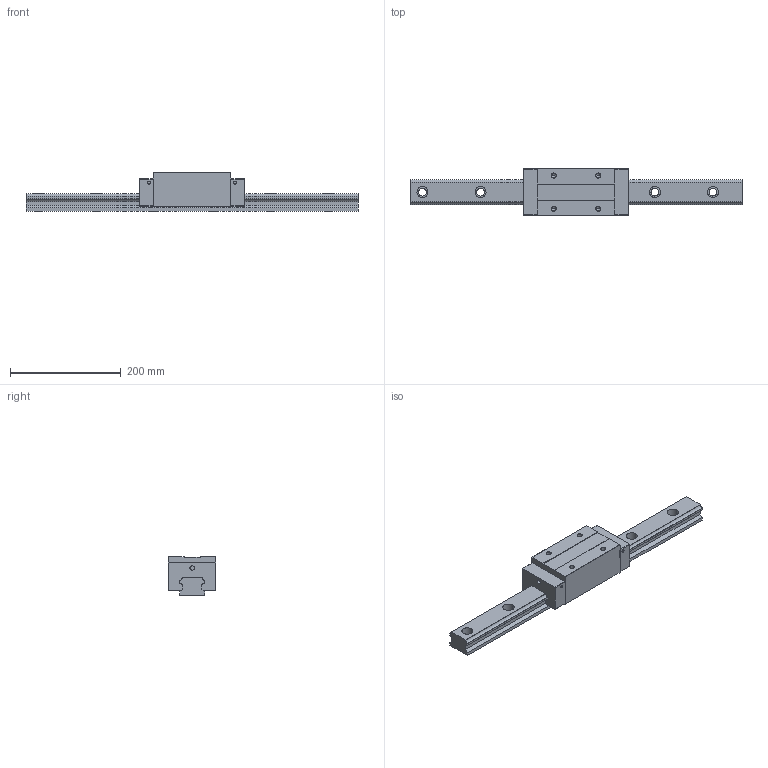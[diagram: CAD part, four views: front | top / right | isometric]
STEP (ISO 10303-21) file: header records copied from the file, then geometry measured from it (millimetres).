
FILE_DESCRIPTION (( 'STEP AP203' ), '1' );
FILE_NAME ('TRH45VE-DU.STEP', '2024-07-10T08:34:09', ( '' ), ( '' ), 'SwSTEP 2.0', 'SolidWorks 2022', '' );
FILE_SCHEMA (( 'CONFIG_CONTROL_DESIGN' ));
Length unit declared in the file: millimetre
Products named in the file (1): TRH45VE-DU
Bounding box: 600 x 85.5 x 70 mm (x, y, z)
Volume: 1477398.5 mm3; surface area: 182795.9 mm2
Topology: 2 solids, 2 shells, 180 faces, 472 edges, 304 vertices
Faces by surface type: plane 84, cylinder 80, cone 16
Entity records: 5607 total; most frequent: DIRECTION 994, CARTESIAN_POINT 949, ORIENTED_EDGE 928, EDGE_CURVE 464, AXIS2_PLACEMENT_3D 349, VERTEX_POINT 304, LINE 296, VECTOR 296
